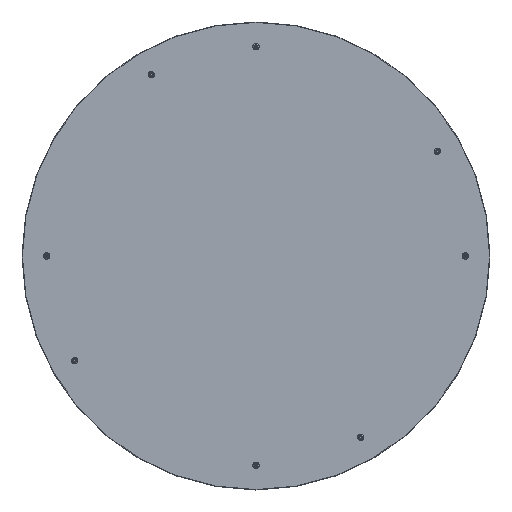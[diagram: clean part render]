
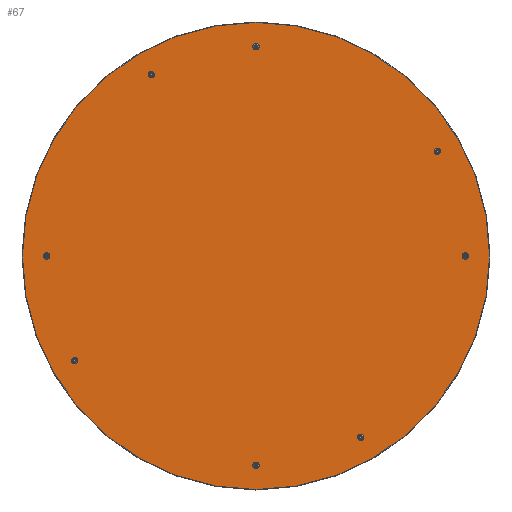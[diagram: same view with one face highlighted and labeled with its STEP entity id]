
A CAD part, top view. The second image highlights one B-rep face of the part: STEP entity #67.
In plain terms, the highlighted planar face has unit normal (0, 0, 1).
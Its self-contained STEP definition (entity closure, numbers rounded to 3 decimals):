
#1 = ORIENTED_EDGE ( 'NONE', *, *, #922, .T. ) ;
#25 = CIRCLE ( 'NONE', #1289, 8.328 ) ;
#48 = CARTESIAN_POINT ( 'NONE',  ( -268.455, 464.978, 55. ) ) ;
#67 = ADVANCED_FACE ( 'NONE', ( #1206, #1191, #1623, #1749, #1761, #897, #1740, #768, #748 ), #477, .T. ) ;
#72 = CARTESIAN_POINT ( 'NONE',  ( 464.978, 268.455, 55. ) ) ;
#74 = CARTESIAN_POINT ( 'NONE',  ( 0., -536.91, 55. ) ) ;
#99 = EDGE_LOOP ( 'NONE', ( #1080 ) ) ;
#110 = CIRCLE ( 'NONE', #868, 8.328 ) ;
#127 = EDGE_LOOP ( 'NONE', ( #672 ) ) ;
#151 = DIRECTION ( 'NONE',  ( 0., 0., -1. ) ) ;
#153 = ORIENTED_EDGE ( 'NONE', *, *, #1347, .T. ) ;
#158 = DIRECTION ( 'NONE',  ( 1., 0., 0. ) ) ;
#164 = EDGE_LOOP ( 'NONE', ( #1791 ) ) ;
#167 = CIRCLE ( 'NONE', #1226, 8.328 ) ;
#184 = CARTESIAN_POINT ( 'NONE',  ( 545.238, 0., 55. ) ) ;
#205 = DIRECTION ( 'NONE',  ( 0., 0., 1. ) ) ;
#206 = DIRECTION ( 'NONE',  ( 0., 0., -1. ) ) ;
#207 = DIRECTION ( 'NONE',  ( 0., 0., -1. ) ) ;
#210 = CARTESIAN_POINT ( 'NONE',  ( 599., 0., 55. ) ) ;
#213 = DIRECTION ( 'NONE',  ( 0., 0., -1. ) ) ;
#233 = CIRCLE ( 'NONE', #1259, 8.328 ) ;
#260 = AXIS2_PLACEMENT_3D ( 'NONE', #48, #343, #1171 ) ;
#268 = EDGE_CURVE ( 'NONE', #884, #884, #167, .T. ) ;
#283 = DIRECTION ( 'NONE',  ( 1., 0., 0. ) ) ;
#294 = CARTESIAN_POINT ( 'NONE',  ( 8.328, -536.91, 55. ) ) ;
#302 = CARTESIAN_POINT ( 'NONE',  ( 536.91, 0., 55. ) ) ;
#317 = DIRECTION ( 'NONE',  ( 1., 0., 0. ) ) ;
#338 = EDGE_LOOP ( 'NONE', ( #511 ) ) ;
#343 = DIRECTION ( 'NONE',  ( 0., 0., -1. ) ) ;
#410 = CARTESIAN_POINT ( 'NONE',  ( 0., 0., 55. ) ) ;
#466 = CARTESIAN_POINT ( 'NONE',  ( -528.582, 0., 55. ) ) ;
#477 = PLANE ( 'NONE',  #1077 ) ;
#491 = CIRCLE ( 'NONE', #1729, 8.328 ) ;
#507 = DIRECTION ( 'NONE',  ( 1., 0., 0. ) ) ;
#511 = ORIENTED_EDGE ( 'NONE', *, *, #1592, .T. ) ;
#524 = EDGE_CURVE ( 'NONE', #676, #676, #233, .T. ) ;
#571 = DIRECTION ( 'NONE',  ( 0., 0., -1. ) ) ;
#622 = CARTESIAN_POINT ( 'NONE',  ( -456.649, -268.455, 55. ) ) ;
#637 = EDGE_LOOP ( 'NONE', ( #1002 ) ) ;
#638 = DIRECTION ( 'NONE',  ( 0., 0., -1. ) ) ;
#672 = ORIENTED_EDGE ( 'NONE', *, *, #268, .T. ) ;
#676 = VERTEX_POINT ( 'NONE', #1763 ) ;
#717 = VERTEX_POINT ( 'NONE', #294 ) ;
#731 = DIRECTION ( 'NONE',  ( 1., 0., 0. ) ) ;
#748 = FACE_BOUND ( 'NONE', #637, .T. ) ;
#768 = FACE_OUTER_BOUND ( 'NONE', #338, .T. ) ;
#838 = EDGE_LOOP ( 'NONE', ( #153 ) ) ;
#850 = VERTEX_POINT ( 'NONE', #1275 ) ;
#868 = AXIS2_PLACEMENT_3D ( 'NONE', #1563, #151, #158 ) ;
#876 = EDGE_LOOP ( 'NONE', ( #982 ) ) ;
#884 = VERTEX_POINT ( 'NONE', #184 ) ;
#897 = FACE_BOUND ( 'NONE', #127, .T. ) ;
#911 = DIRECTION ( 'NONE',  ( 1., 0., 0. ) ) ;
#922 = EDGE_CURVE ( 'NONE', #717, #717, #1104, .T. ) ;
#982 = ORIENTED_EDGE ( 'NONE', *, *, #1350, .T. ) ;
#985 = VERTEX_POINT ( 'NONE', #996 ) ;
#990 = AXIS2_PLACEMENT_3D ( 'NONE', #410, #1536, #1554 ) ;
#996 = CARTESIAN_POINT ( 'NONE',  ( 473.306, 268.455, 55. ) ) ;
#1002 = ORIENTED_EDGE ( 'NONE', *, *, #524, .T. ) ;
#1025 = VERTEX_POINT ( 'NONE', #210 ) ;
#1029 = EDGE_LOOP ( 'NONE', ( #1755 ) ) ;
#1047 = CIRCLE ( 'NONE', #990, 599. ) ;
#1063 = VERTEX_POINT ( 'NONE', #466 ) ;
#1077 = AXIS2_PLACEMENT_3D ( 'NONE', #1462, #205, #507 ) ;
#1080 = ORIENTED_EDGE ( 'NONE', *, *, #1659, .T. ) ;
#1104 = CIRCLE ( 'NONE', #1812, 8.328 ) ;
#1158 = CARTESIAN_POINT ( 'NONE',  ( -536.91, 0., 55. ) ) ;
#1171 = DIRECTION ( 'NONE',  ( 1., 0., 0. ) ) ;
#1173 = EDGE_CURVE ( 'NONE', #850, #850, #110, .T. ) ;
#1191 = FACE_BOUND ( 'NONE', #1029, .T. ) ;
#1203 = VERTEX_POINT ( 'NONE', #622 ) ;
#1206 = FACE_BOUND ( 'NONE', #838, .T. ) ;
#1226 = AXIS2_PLACEMENT_3D ( 'NONE', #302, #1716, #283 ) ;
#1259 = AXIS2_PLACEMENT_3D ( 'NONE', #1305, #213, #1345 ) ;
#1262 = CIRCLE ( 'NONE', #1324, 8.328 ) ;
#1275 = CARTESIAN_POINT ( 'NONE',  ( 276.783, -464.978, 55. ) ) ;
#1289 = AXIS2_PLACEMENT_3D ( 'NONE', #1685, #571, #1415 ) ;
#1305 = CARTESIAN_POINT ( 'NONE',  ( 0., 536.91, 55. ) ) ;
#1324 = AXIS2_PLACEMENT_3D ( 'NONE', #1158, #206, #731 ) ;
#1345 = DIRECTION ( 'NONE',  ( 1., 0., 0. ) ) ;
#1347 = EDGE_CURVE ( 'NONE', #1683, #1683, #1815, .T. ) ;
#1350 = EDGE_CURVE ( 'NONE', #985, #985, #491, .T. ) ;
#1415 = DIRECTION ( 'NONE',  ( 1., 0., 0. ) ) ;
#1462 = CARTESIAN_POINT ( 'NONE',  ( 0., 0., 55. ) ) ;
#1536 = DIRECTION ( 'NONE',  ( 0., 0., 1. ) ) ;
#1554 = DIRECTION ( 'NONE',  ( 1., 0., 0. ) ) ;
#1563 = CARTESIAN_POINT ( 'NONE',  ( 268.455, -464.978, 55. ) ) ;
#1592 = EDGE_CURVE ( 'NONE', #1025, #1025, #1047, .T. ) ;
#1623 = FACE_BOUND ( 'NONE', #99, .T. ) ;
#1659 = EDGE_CURVE ( 'NONE', #1203, #1203, #25, .T. ) ;
#1683 = VERTEX_POINT ( 'NONE', #1689 ) ;
#1685 = CARTESIAN_POINT ( 'NONE',  ( -464.978, -268.455, 55. ) ) ;
#1689 = CARTESIAN_POINT ( 'NONE',  ( -260.127, 464.978, 55. ) ) ;
#1716 = DIRECTION ( 'NONE',  ( 0., 0., -1. ) ) ;
#1729 = AXIS2_PLACEMENT_3D ( 'NONE', #72, #207, #317 ) ;
#1740 = FACE_BOUND ( 'NONE', #876, .T. ) ;
#1749 = FACE_BOUND ( 'NONE', #1807, .T. ) ;
#1755 = ORIENTED_EDGE ( 'NONE', *, *, #1818, .T. ) ;
#1761 = FACE_BOUND ( 'NONE', #164, .T. ) ;
#1763 = CARTESIAN_POINT ( 'NONE',  ( 8.328, 536.91, 55. ) ) ;
#1791 = ORIENTED_EDGE ( 'NONE', *, *, #1173, .T. ) ;
#1807 = EDGE_LOOP ( 'NONE', ( #1 ) ) ;
#1812 = AXIS2_PLACEMENT_3D ( 'NONE', #74, #638, #911 ) ;
#1815 = CIRCLE ( 'NONE', #260, 8.328 ) ;
#1818 = EDGE_CURVE ( 'NONE', #1063, #1063, #1262, .T. ) ;
